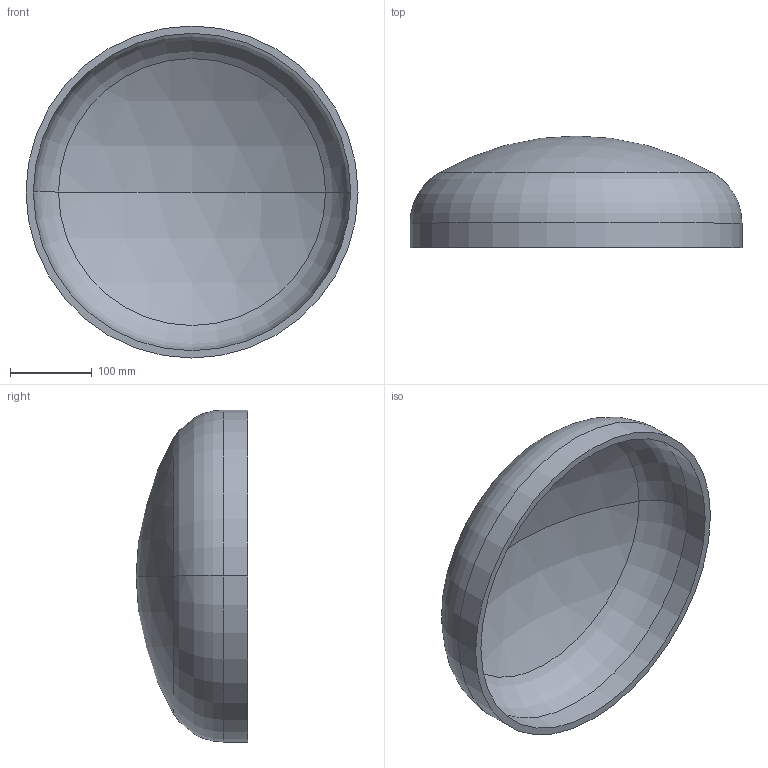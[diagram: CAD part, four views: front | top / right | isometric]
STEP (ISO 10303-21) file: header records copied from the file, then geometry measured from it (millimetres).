
FILE_DESCRIPTION (( 'STEP AP203' ), '1' );
FILE_NAME ('DIN 28013 Korbbogenform_-_Boden DIN 28013 - 406,4 x 30 - I - s=9.step', '2016-07-01T07:48:52', ( '' ), ( '' ), 'SwSTEP 2.0', 'SolidWorks 2013', '' );
FILE_SCHEMA (( 'CONFIG_CONTROL_DESIGN' ));
Length unit declared in the file: millimetre
Products named in the file (1): DIN 28013 Korbbogenform_-_Boden DIN 28013 - 406,4 x 30 - I - s=9
Bounding box: 406.4 x 136.64 x 406.4 mm (x, y, z)
Volume: 1904727 mm3; surface area: 434678.4 mm2
Topology: 1 solids, 1 shells, 13 faces, 24 edges, 14 vertices
Faces by surface type: torus 4, cylinder 4, sphere 4, plane 1
Entity records: 407 total; most frequent: DIRECTION 72, CARTESIAN_POINT 52, ORIENTED_EDGE 48, AXIS2_PLACEMENT_3D 34, EDGE_CURVE 24, CIRCLE 20, VERTEX_POINT 14, EDGE_LOOP 14
